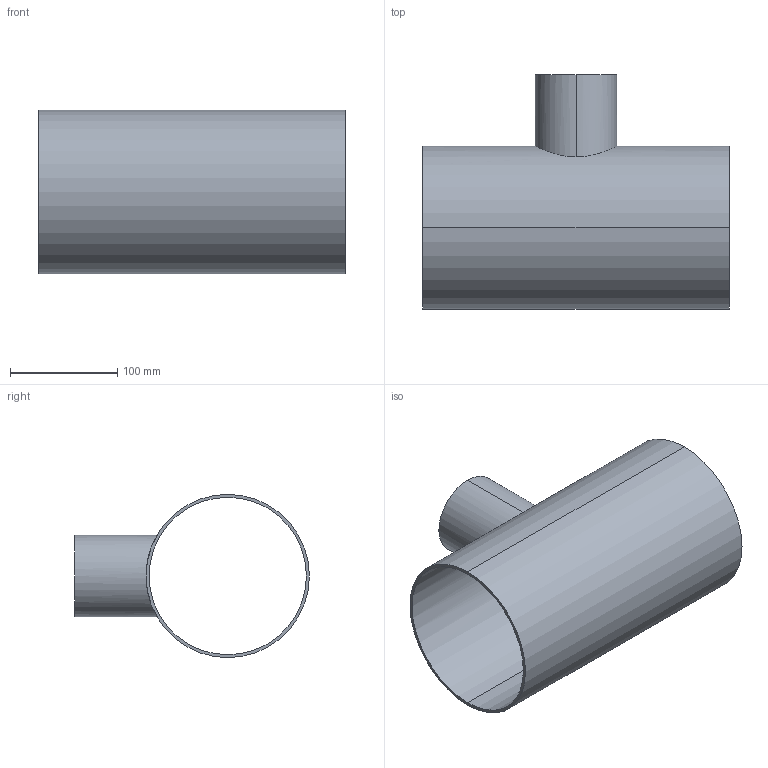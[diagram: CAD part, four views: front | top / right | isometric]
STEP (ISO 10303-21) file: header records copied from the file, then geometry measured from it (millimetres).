
FILE_DESCRIPTION (( 'STEP AP203' ), '1' );
FILE_NAME ('E7RWWW6.0X3.0.STEP', '2018-04-30T18:31:22', ( 'vneprd' ), ( 'Microsoft' ), 'SwSTEP 2.0', 'SolidWorks 2014', '' );
FILE_SCHEMA (( 'CONFIG_CONTROL_DESIGN' ));
Length unit declared in the file: inch
Products named in the file (1): E7RWWW6.0X3.0
Bounding box: 285.75 x 219.07 x 152.4 mm (x, y, z)
Volume: 387589.8 mm3; surface area: 296804.1 mm2
Topology: 1 solids, 1 shells, 13 faces, 30 edges, 20 vertices
Faces by surface type: cylinder 8, plane 5
Entity records: 703 total; most frequent: CARTESIAN_POINT 308, DIRECTION 70, ORIENTED_EDGE 60, AXIS2_PLACEMENT_3D 30, EDGE_CURVE 30, VERTEX_POINT 20, EDGE_LOOP 18, CIRCLE 16
